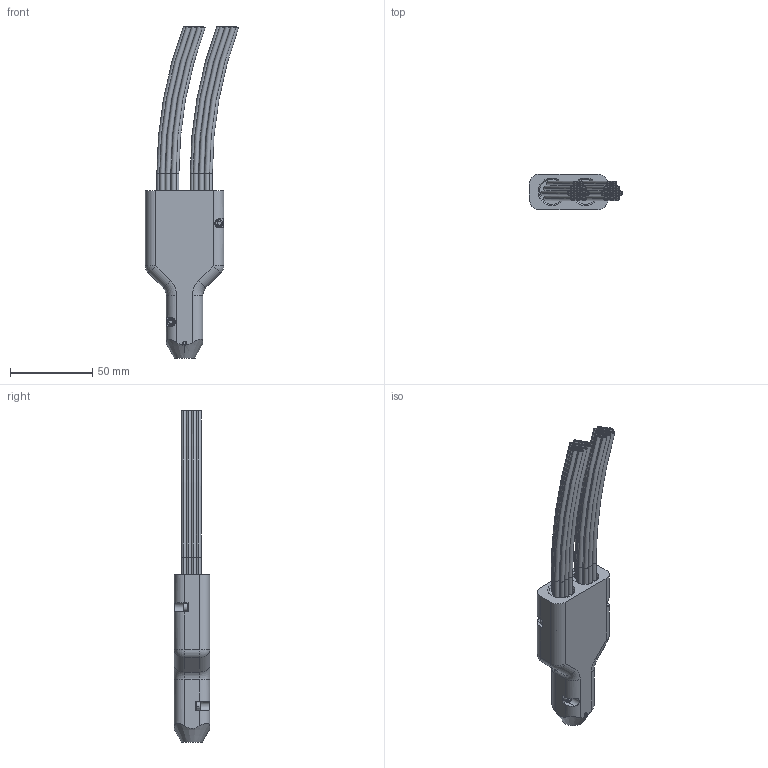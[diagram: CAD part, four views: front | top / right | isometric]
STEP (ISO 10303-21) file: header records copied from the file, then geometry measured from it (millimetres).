
FILE_DESCRIPTION (( 'STEP AP214' ), '1' );
FILE_NAME ('QGRIP-3S-24CH-SXX.STEP', '2025-03-27T23:13:22', ( '' ), ( '' ), 'SwSTEP 2.0', 'SolidWorks 2024', '' );
FILE_SCHEMA (( 'AUTOMOTIVE_DESIGN' ));
Length unit declared in the file: inch
Products named in the file (1): QGRIP-3S-24CH-SXX
Bounding box: 56.64 x 21.59 x 201.69 mm (x, y, z)
Volume: 52029.3 mm3; surface area: 60212.7 mm2
Topology: 5 solids, 12 shells, 821 faces, 1926 edges, 1194 vertices
Faces by surface type: cylinder 378, plane 191, cone 120, torus 116, bspline 12, sphere 4
Entity records: 29315 total; most frequent: CARTESIAN_POINT 10974, DIRECTION 3936, ORIENTED_EDGE 3836, EDGE_CURVE 1918, AXIS2_PLACEMENT_3D 1636, VERTEX_POINT 1194, EDGE_LOOP 906, CIRCLE 826
